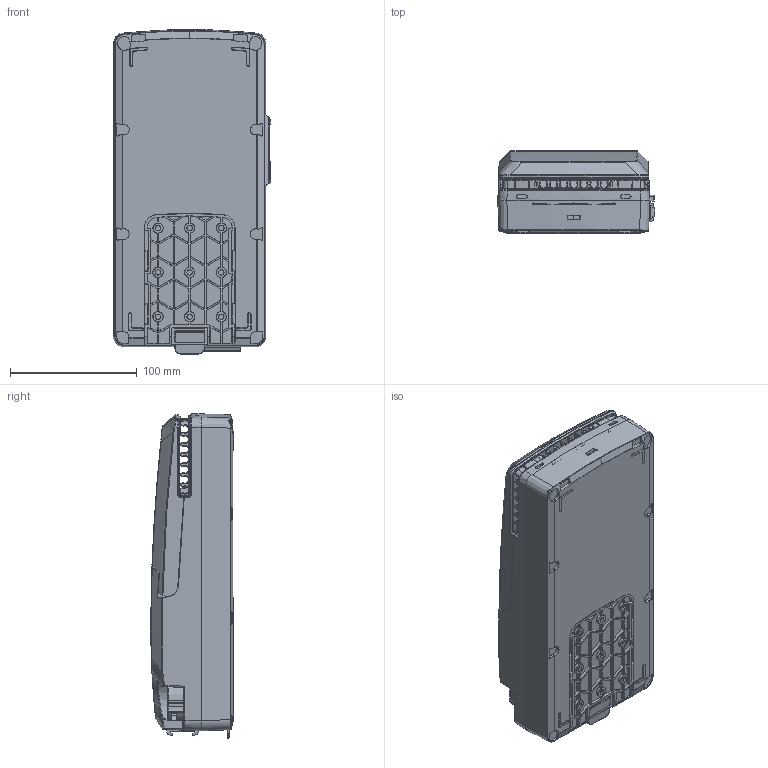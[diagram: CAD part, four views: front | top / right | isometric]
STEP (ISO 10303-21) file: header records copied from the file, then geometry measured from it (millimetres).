
FILE_DESCRIPTION (( 'STEP AP203' ), '1' );
FILE_NAME ('kontrol kutusu2 DOLU.STEP', '2023-07-31T06:30:18', ( '' ), ( '' ), 'SwSTEP 2.0', 'SolidWorks 2023', '' );
FILE_SCHEMA (( 'CONFIG_CONTROL_DESIGN' ));
Products named in the file (1): kontrol kutusu2 DOLU
Bounding box: 123.55 x 65.3 x 256.05 mm (x, y, z)
Volume: 1473513.1 mm3; surface area: 181991.2 mm2
Topology: 1 solids, 39 shells, 2982 faces, 7608 edges, 4734 vertices
Faces by surface type: plane 1024, cylinder 804, cone 406, bspline 396, torus 233, sphere 119
Entity records: 115682 total; most frequent: CARTESIAN_POINT 50659, ORIENTED_EDGE 15048, DIRECTION 11346, EDGE_CURVE 7524, VERTEX_POINT 4702, AXIS2_PLACEMENT_3D 4150, EDGE_LOOP 3074, LINE 3046
